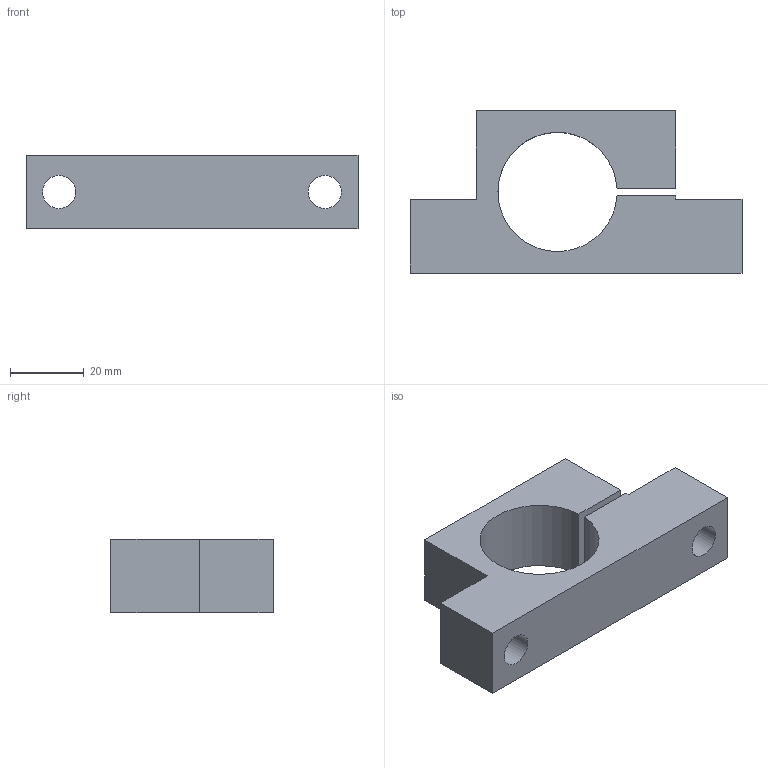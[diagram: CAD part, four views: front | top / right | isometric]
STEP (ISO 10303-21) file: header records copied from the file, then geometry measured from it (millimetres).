
FILE_DESCRIPTION(/* description */ (''),/* implementation_level */ '2;1');
FILE_NAME(/* name */ 'C:\Users\Jefferson\Desktop\Biblioteca Pro Nitro 2024\Flanges\PNB-57-XXX\PNB-57-032.stp',/* time_stamp */ '2024-01-29T10:06:03-03:00',/* author */ ('Jefferson'),/* organization */ (''),/* preprocessor_version */ 'ST-DEVELOPER v18.1',/* originating_system */ 'Autodesk Inventor 2021',/* authorisation */ '');
FILE_SCHEMA (('AUTOMOTIVE_DESIGN { 1 0 10303 214 3 1 1 }'));
Length unit declared in the file: millimetre
Products named in the file (1): PNB-57-032
Bounding box: 90 x 44 x 20 mm (x, y, z)
Volume: 40907 mm3; surface area: 14036.5 mm2
Topology: 1 solids, 1 shells, 176 faces, 483 edges, 324 vertices
Faces by surface type: plane 92, bspline 77, cylinder 6, cone 1
Full cylindrical faces by diameter (mm): 4.917 x1, 6.5 x1, 9 x2, 11 x1
Entity records: 6004 total; most frequent: CARTESIAN_POINT 1984, ORIENTED_EDGE 964, DIRECTION 547, EDGE_CURVE 482, VERTEX_POINT 324, LINE 309, VECTOR 309, EDGE_LOOP 198
